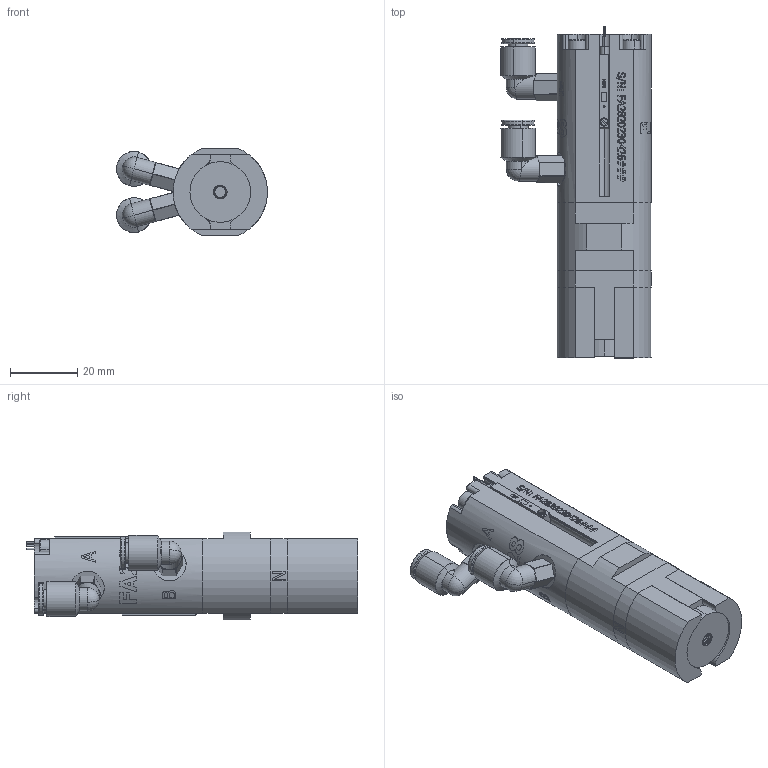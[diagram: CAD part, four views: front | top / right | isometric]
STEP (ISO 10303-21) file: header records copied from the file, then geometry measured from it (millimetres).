
FILE_DESCRIPTION (( 'STEP AP214' ), '1' );
FILE_NAME ('9970120_FA28-P-2(FOR SHARE).STEP', '2023-10-06T08:05:43', ( '' ), ( '' ), 'SwSTEP 2.0', 'SolidWorks 2021', '' );
FILE_SCHEMA (( 'AUTOMOTIVE_DESIGN' ));
Length unit declared in the file: millimetre
Products named in the file (14): 210012_D-M9N magnetic prox switch (NPN)_M9P; 110031_FA28 actuator top(FOR SHARE); 4060033_FA28 std pin pole kit_默认_; 9970120_FA28-P-2(FOR SHARE); 110030_FA28 base housing(FOR SHARE); 9070005 - FA28 (FOR SHARE); 160029_2.5X8__SUS304_默认_; 120040_FA28 shunt(FOR SHARE); 180027_ M5-6mm_plug-in airport; 120050_FA28 std  pin pole; 150048_M3X75_SHCS_304(FOR SHARE)_91292A316; 160032_2.5X20__SUS304_默认_; 120051 - FA28 PIN insert; 160030_2.5X12__SUS304_默认_
Assembly tree (22 placements, depth 3):
  9970120_FA28-P-2(FOR SHARE)
    9070005 - FA28 (FOR SHARE)
      110031_FA28 actuator top(FOR SHARE)
      110030_FA28 base housing(FOR SHARE)
      120040_FA28 shunt(FOR SHARE)
      150048_M3X75_SHCS_304(FOR SHARE)_91292A316  x4
      160029_2.5X8__SUS304_默认_  x2
      160030_2.5X12__SUS304_默认_  x2
    210012_D-M9N magnetic prox switch (NPN)_M9P  x2
    4060033_FA28 std pin pole kit_默认_
      120050_FA28 std  pin pole  x2
      120051 - FA28 PIN insert
      160032_2.5X20__SUS304_默认_  x2
    180027_ M5-6mm_plug-in airport  x2
Bounding box: 44.78 x 98.5 x 26 mm (x, y, z)
Volume: 50455.9 mm3; surface area: 27076.1 mm2
Topology: 20 solids, 26 shells, 856 faces, 2450 edges, 1683 vertices
Faces by surface type: cylinder 338, plane 268, cone 153, bspline 37, torus 32, sphere 28
Entity records: 27845 total; most frequent: CARTESIAN_POINT 10970, ORIENTED_EDGE 3294, DIRECTION 2802, EDGE_CURVE 1651, VERTEX_POINT 1242, AXIS2_PLACEMENT_3D 1022, VECTOR 758, LINE 758
